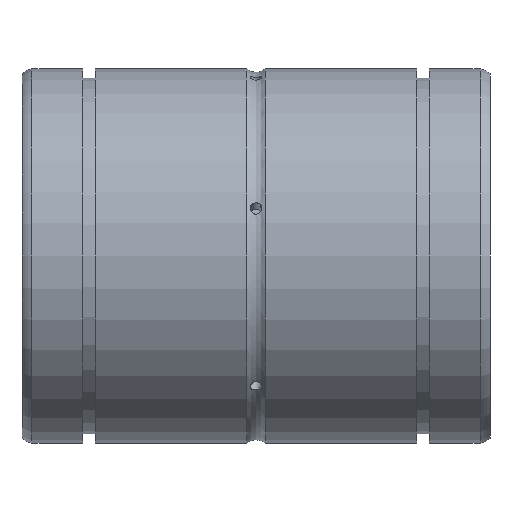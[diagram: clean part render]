
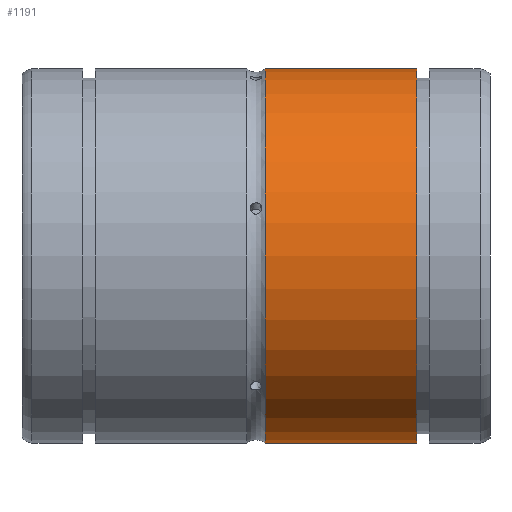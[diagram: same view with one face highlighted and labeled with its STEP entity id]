
A CAD part, front view. The second image highlights one B-rep face of the part: STEP entity #1191.
In plain terms, the highlighted cylindrical face has radius 40 mm (diameter 80 mm), a full revolution.
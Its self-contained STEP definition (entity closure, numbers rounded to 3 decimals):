
#1157=CARTESIAN_POINT('',(84.4,0.0,40.));
#1158=VERTEX_POINT('',#1157);
#1159=CARTESIAN_POINT('',(84.4,0.0,0.));
#1160=DIRECTION('',(-1.0,0.0,0.0));
#1161=DIRECTION('',(0.0,0.0,1.0));
#1162=AXIS2_PLACEMENT_3D('',#1159,#1160,#1161);
#1163=CIRCLE('',#1162,40.);
#1164=EDGE_CURVE('',#1158,#1158,#1163,.T.);
#1172=CARTESIAN_POINT('',(68.192,0.0,0.));
#1173=DIRECTION('',(-1.0,0.0,0.));
#1174=DIRECTION('',(0.0,0.0,1.0));
#1175=AXIS2_PLACEMENT_3D('',#1172,#1173,#1174);
#1176=CYLINDRICAL_SURFACE('',#1175,40.);
#1177=CARTESIAN_POINT('',(51.984,0.0,40.));
#1178=VERTEX_POINT('',#1177);
#1179=CARTESIAN_POINT('',(51.984,0.0,0.));
#1180=DIRECTION('',(-1.0,0.0,0.0));
#1181=DIRECTION('',(0.0,0.0,1.0));
#1182=AXIS2_PLACEMENT_3D('',#1179,#1180,#1181);
#1183=CIRCLE('',#1182,40.);
#1184=EDGE_CURVE('',#1178,#1178,#1183,.T.);
#1185=ORIENTED_EDGE('',*,*,#1184,.F.);
#1186=EDGE_LOOP('',(#1185));
#1187=FACE_OUTER_BOUND('',#1186,.T.);
#1188=ORIENTED_EDGE('',*,*,#1164,.T.);
#1189=EDGE_LOOP('',(#1188));
#1190=FACE_BOUND('',#1189,.T.);
#1191=ADVANCED_FACE('',(#1187,#1190),#1176,.T.);
